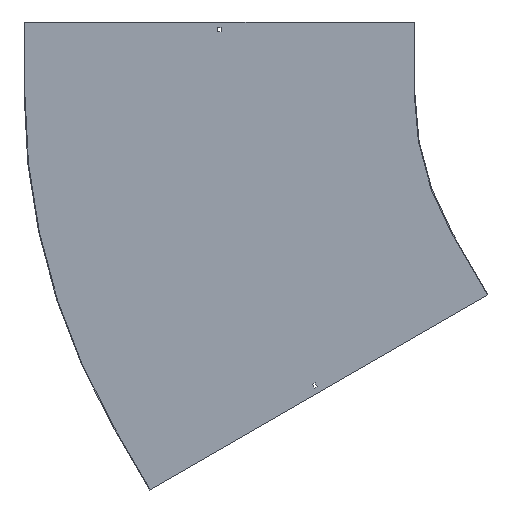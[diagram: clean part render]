
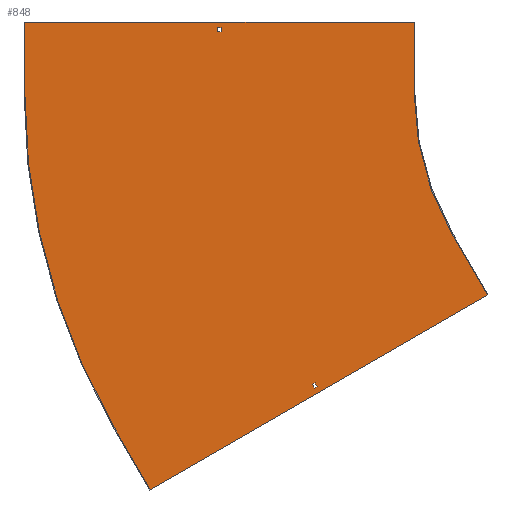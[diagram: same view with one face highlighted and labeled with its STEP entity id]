
A CAD part, front view. The second image highlights one B-rep face of the part: STEP entity #848.
In plain terms, the highlighted planar face has unit normal (0, -1, 0).
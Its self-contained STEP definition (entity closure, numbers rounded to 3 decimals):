
#7 = CARTESIAN_POINT ( 'NONE',  ( -996.75, -1.5, 138. ) ) ;
#12 = VERTEX_POINT ( 'NONE', #7 ) ;
#17 = VECTOR ( 'NONE', #776, 1000. ) ;
#18 = CARTESIAN_POINT ( 'NONE',  ( -1003.25, -1.5, 138. ) ) ;
#19 = DIRECTION ( 'NONE',  ( 0., -1., 0. ) ) ;
#20 = CARTESIAN_POINT ( 'NONE',  ( -1146.096, -1.5, -834.904 ) ) ;
#23 = DIRECTION ( 'NONE',  ( 0.866, 0., 0.5 ) ) ;
#33 = EDGE_CURVE ( 'NONE', #456, #748, #142, .T. ) ;
#35 = LINE ( 'NONE', #430, #828 ) ;
#56 = EDGE_CURVE ( 'NONE', #524, #416, #304, .T. ) ;
#78 = CARTESIAN_POINT ( 'NONE',  ( -1410., -1.5, 0. ) ) ;
#85 = VERTEX_POINT ( 'NONE', #703 ) ;
#89 = EDGE_CURVE ( 'NONE', #12, #777, #235, .T. ) ;
#91 = DIRECTION ( 'NONE',  ( 0., 1., 0. ) ) ;
#93 = VECTOR ( 'NONE', #419, 1000. ) ;
#94 = VECTOR ( 'NONE', #473, 1000. ) ;
#96 = EDGE_CURVE ( 'NONE', #597, #524, #354, .T. ) ;
#98 = CARTESIAN_POINT ( 'NONE',  ( -996.75, -1.5, 0. ) ) ;
#100 = DIRECTION ( 'NONE',  ( -0.866, 0., -0.5 ) ) ;
#110 = VECTOR ( 'NONE', #23, 1000. ) ;
#111 = LINE ( 'NONE', #187, #641 ) ;
#117 = ORIENTED_EDGE ( 'NONE', *, *, #126, .F. ) ;
#123 = LINE ( 'NONE', #795, #154 ) ;
#124 = ORIENTED_EDGE ( 'NONE', *, *, #490, .F. ) ;
#126 = EDGE_CURVE ( 'NONE', #748, #789, #434, .T. ) ;
#132 = VERTEX_POINT ( 'NONE', #358 ) ;
#135 = CARTESIAN_POINT ( 'NONE',  ( -1410., -1.5, 150. ) ) ;
#140 = CARTESIAN_POINT ( 'NONE',  ( -1003.25, -1.5, 129. ) ) ;
#142 = LINE ( 'NONE', #20, #93 ) ;
#152 = ORIENTED_EDGE ( 'NONE', *, *, #56, .F. ) ;
#154 = VECTOR ( 'NONE', #717, 1000. ) ;
#157 = CARTESIAN_POINT ( 'NONE',  ( -1146.096, -1.5, -834.904 ) ) ;
#161 = FACE_BOUND ( 'NONE', #256, .T. ) ;
#164 = FACE_OUTER_BOUND ( 'NONE', #481, .T. ) ;
#167 = AXIS2_PLACEMENT_3D ( 'NONE', #706, #91, #709 ) ;
#181 = EDGE_CURVE ( 'NONE', #504, #132, #510, .T. ) ;
#187 = CARTESIAN_POINT ( 'NONE',  ( 0., -1.5, 138. ) ) ;
#189 = EDGE_CURVE ( 'NONE', #314, #12, #111, .T. ) ;
#196 = EDGE_CURVE ( 'NONE', #789, #723, #123, .T. ) ;
#220 = ORIENTED_EDGE ( 'NONE', *, *, #508, .F. ) ;
#226 = ORIENTED_EDGE ( 'NONE', *, *, #500, .F. ) ;
#235 = LINE ( 'NONE', #98, #584 ) ;
#237 = AXIS2_PLACEMENT_3D ( 'NONE', #580, #724, #721 ) ;
#247 = EDGE_CURVE ( 'NONE', #777, #322, #712, .T. ) ;
#255 = DIRECTION ( 'NONE',  ( -1., 0., 0. ) ) ;
#256 = EDGE_LOOP ( 'NONE', ( #152, #774, #737, #744 ) ) ;
#258 = CARTESIAN_POINT ( 'NONE',  ( -1003.25, -1.5, 0. ) ) ;
#263 = VECTOR ( 'NONE', #754, 1000. ) ;
#303 = LINE ( 'NONE', #620, #407 ) ;
#304 = LINE ( 'NONE', #617, #17 ) ;
#306 = CARTESIAN_POINT ( 'NONE',  ( -799.84, -1.5, -621.137 ) ) ;
#309 = ORIENTED_EDGE ( 'NONE', *, *, #557, .F. ) ;
#311 = EDGE_CURVE ( 'NONE', #322, #314, #860, .T. ) ;
#312 = CARTESIAN_POINT ( 'NONE',  ( 0., -1.5, 129. ) ) ;
#314 = VERTEX_POINT ( 'NONE', #18 ) ;
#322 = VERTEX_POINT ( 'NONE', #140 ) ;
#332 = VECTOR ( 'NONE', #255, 1000. ) ;
#335 = ORIENTED_EDGE ( 'NONE', *, *, #33, .F. ) ;
#354 = LINE ( 'NONE', #773, #110 ) ;
#358 = CARTESIAN_POINT ( 'NONE',  ( -510.955, -1.5, -295. ) ) ;
#365 = DIRECTION ( 'NONE',  ( 0., 0., -1. ) ) ;
#367 = EDGE_CURVE ( 'NONE', #416, #464, #729, .T. ) ;
#370 = DIRECTION ( 'NONE',  ( 1., 0., 0. ) ) ;
#407 = VECTOR ( 'NONE', #365, 1000. ) ;
#416 = VERTEX_POINT ( 'NONE', #670 ) ;
#419 = DIRECTION ( 'NONE',  ( -0.5, 0., 0.866 ) ) ;
#421 = CARTESIAN_POINT ( 'NONE',  ( -435.955, -1.5, -424.904 ) ) ;
#422 = LINE ( 'NONE', #426, #263 ) ;
#426 = CARTESIAN_POINT ( 'NONE',  ( -510.955, -1.5, -295. ) ) ;
#427 = PLANE ( 'NONE',  #683 ) ;
#430 = CARTESIAN_POINT ( 'NONE',  ( -1411.5, -1.5, 150. ) ) ;
#434 = CIRCLE ( 'NONE', #167, 1410. ) ;
#435 = CARTESIAN_POINT ( 'NONE',  ( -434.656, -1.5, -424.154 ) ) ;
#456 = VERTEX_POINT ( 'NONE', #157 ) ;
#464 = VERTEX_POINT ( 'NONE', #829 ) ;
#467 = CARTESIAN_POINT ( 'NONE',  ( -1221.096, -1.5, -705. ) ) ;
#473 = DIRECTION ( 'NONE',  ( -0.866, 0., -0.5 ) ) ;
#481 = EDGE_LOOP ( 'NONE', ( #226, #803, #117, #335, #220, #309, #546, #124 ) ) ;
#490 = EDGE_CURVE ( 'NONE', #85, #504, #303, .T. ) ;
#491 = DIRECTION ( 'NONE',  ( 0., 0., -1. ) ) ;
#500 = EDGE_CURVE ( 'NONE', #723, #85, #35, .T. ) ;
#504 = VERTEX_POINT ( 'NONE', #769 ) ;
#506 = DIRECTION ( 'NONE',  ( 0.5, 0., -0.866 ) ) ;
#508 = EDGE_CURVE ( 'NONE', #668, #456, #551, .T. ) ;
#510 = CIRCLE ( 'NONE', #237, 590. ) ;
#524 = VERTEX_POINT ( 'NONE', #830 ) ;
#529 = EDGE_LOOP ( 'NONE', ( #610, #672, #722, #649 ) ) ;
#541 = CARTESIAN_POINT ( 'NONE',  ( 64.5, -1.5, -111.717 ) ) ;
#546 = ORIENTED_EDGE ( 'NONE', *, *, #181, .F. ) ;
#551 = LINE ( 'NONE', #435, #745 ) ;
#557 = EDGE_CURVE ( 'NONE', #132, #668, #422, .T. ) ;
#562 = FACE_BOUND ( 'NONE', #529, .T. ) ;
#576 = CARTESIAN_POINT ( 'NONE',  ( -868.84, -1.5, -501.625 ) ) ;
#580 = CARTESIAN_POINT ( 'NONE',  ( 0., -1.5, 0. ) ) ;
#584 = VECTOR ( 'NONE', #491, 1000. ) ;
#597 = VERTEX_POINT ( 'NONE', #306 ) ;
#610 = ORIENTED_EDGE ( 'NONE', *, *, #189, .T. ) ;
#617 = CARTESIAN_POINT ( 'NONE',  ( -863.211, -1.5, -498.375 ) ) ;
#620 = CARTESIAN_POINT ( 'NONE',  ( -590., -1.5, 150. ) ) ;
#627 = VECTOR ( 'NONE', #738, 1000. ) ;
#638 = LINE ( 'NONE', #576, #741 ) ;
#641 = VECTOR ( 'NONE', #852, 1000. ) ;
#646 = EDGE_CURVE ( 'NONE', #464, #597, #638, .T. ) ;
#649 = ORIENTED_EDGE ( 'NONE', *, *, #311, .T. ) ;
#668 = VERTEX_POINT ( 'NONE', #421 ) ;
#670 = CARTESIAN_POINT ( 'NONE',  ( -798.711, -1.5, -610.092 ) ) ;
#672 = ORIENTED_EDGE ( 'NONE', *, *, #89, .T. ) ;
#676 = CARTESIAN_POINT ( 'NONE',  ( -996.75, -1.5, 129. ) ) ;
#681 = DIRECTION ( 'NONE',  ( 0., 0., -1. ) ) ;
#683 = AXIS2_PLACEMENT_3D ( 'NONE', #831, #19, #681 ) ;
#703 = CARTESIAN_POINT ( 'NONE',  ( -590., -1.5, 150. ) ) ;
#706 = CARTESIAN_POINT ( 'NONE',  ( 0., -1.5, 0. ) ) ;
#709 = DIRECTION ( 'NONE',  ( 0., 0., -1. ) ) ;
#712 = LINE ( 'NONE', #312, #332 ) ;
#717 = DIRECTION ( 'NONE',  ( 0., 0., 1. ) ) ;
#721 = DIRECTION ( 'NONE',  ( 0., 0., -1. ) ) ;
#722 = ORIENTED_EDGE ( 'NONE', *, *, #247, .T. ) ;
#723 = VERTEX_POINT ( 'NONE', #135 ) ;
#724 = DIRECTION ( 'NONE',  ( 0., -1., 0. ) ) ;
#729 = LINE ( 'NONE', #541, #94 ) ;
#737 = ORIENTED_EDGE ( 'NONE', *, *, #646, .F. ) ;
#738 = DIRECTION ( 'NONE',  ( 0., 0., 1. ) ) ;
#741 = VECTOR ( 'NONE', #506, 1000. ) ;
#744 = ORIENTED_EDGE ( 'NONE', *, *, #367, .F. ) ;
#745 = VECTOR ( 'NONE', #100, 1000. ) ;
#748 = VERTEX_POINT ( 'NONE', #467 ) ;
#754 = DIRECTION ( 'NONE',  ( 0.5, 0., -0.866 ) ) ;
#769 = CARTESIAN_POINT ( 'NONE',  ( -590., -1.5, 0. ) ) ;
#773 = CARTESIAN_POINT ( 'NONE',  ( 69., -1.5, -119.512 ) ) ;
#774 = ORIENTED_EDGE ( 'NONE', *, *, #96, .F. ) ;
#776 = DIRECTION ( 'NONE',  ( -0.5, 0., 0.866 ) ) ;
#777 = VERTEX_POINT ( 'NONE', #676 ) ;
#789 = VERTEX_POINT ( 'NONE', #78 ) ;
#795 = CARTESIAN_POINT ( 'NONE',  ( -1410., -1.5, 0. ) ) ;
#803 = ORIENTED_EDGE ( 'NONE', *, *, #196, .F. ) ;
#828 = VECTOR ( 'NONE', #370, 1000. ) ;
#829 = CARTESIAN_POINT ( 'NONE',  ( -804.34, -1.5, -613.342 ) ) ;
#830 = CARTESIAN_POINT ( 'NONE',  ( -794.211, -1.5, -617.887 ) ) ;
#831 = CARTESIAN_POINT ( 'NONE',  ( 0., -1.5, 0. ) ) ;
#848 = ADVANCED_FACE ( 'NONE', ( #161, #164, #562 ), #427, .T. ) ;
#852 = DIRECTION ( 'NONE',  ( 1., 0., 0. ) ) ;
#860 = LINE ( 'NONE', #258, #627 ) ;
